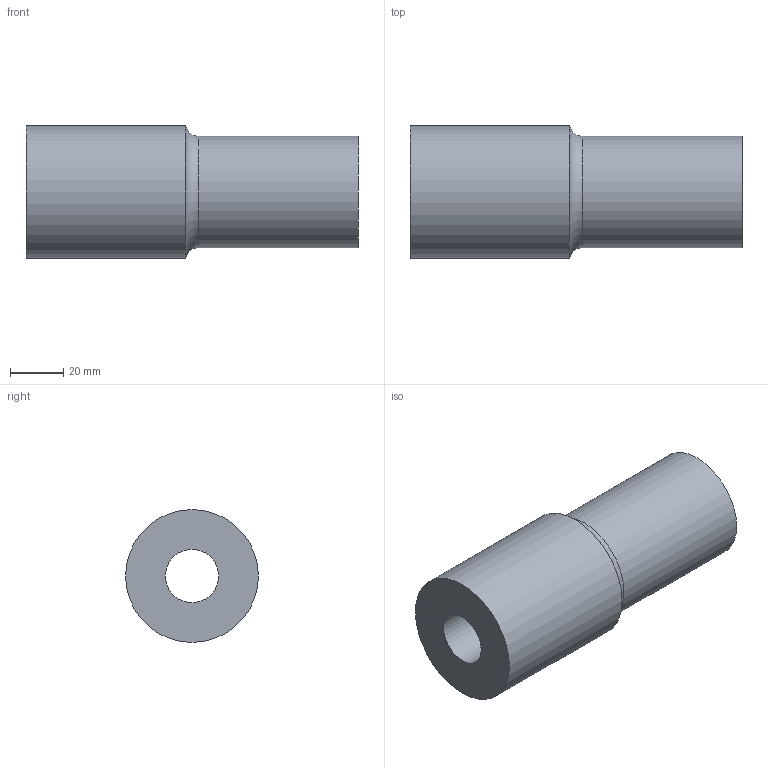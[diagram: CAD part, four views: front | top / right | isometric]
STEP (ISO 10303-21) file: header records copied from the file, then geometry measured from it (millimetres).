
FILE_DESCRIPTION (( 'STEP AP214' ), '1' );
FILE_NAME ('Welle_mit_Absatz.STEP', '2017-01-16T12:57:59', ( '' ), ( '' ), 'SwSTEP 2.0', 'SolidWorks 2014', '' );
FILE_SCHEMA (( 'AUTOMOTIVE_DESIGN' ));
Length unit declared in the file: millimetre
Products named in the file (1): Welle_mit_Absatz
Bounding box: 124.9 x 50 x 50 mm (x, y, z)
Volume: 169167.2 mm3; surface area: 28874.5 mm2
Topology: 1 solids, 1 shells, 6 faces, 10 edges, 6 vertices
Faces by surface type: cylinder 3, plane 2, torus 1
Full cylindrical faces by diameter (mm): 20 x1, 42 x1, 50 x1
Entity records: 162 total; most frequent: DIRECTION 26, CARTESIAN_POINT 19, AXIS2_PLACEMENT_3D 13, EDGE_LOOP 12, ORIENTED_EDGE 12, FACE_OUTER_BOUND 10, EDGE_CURVE 6, CIRCLE 6
